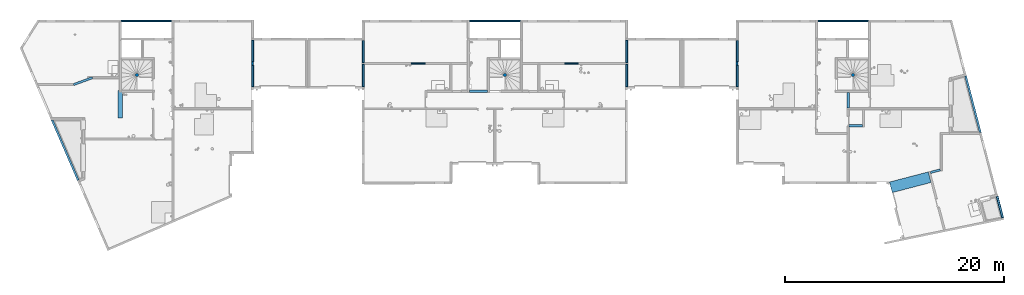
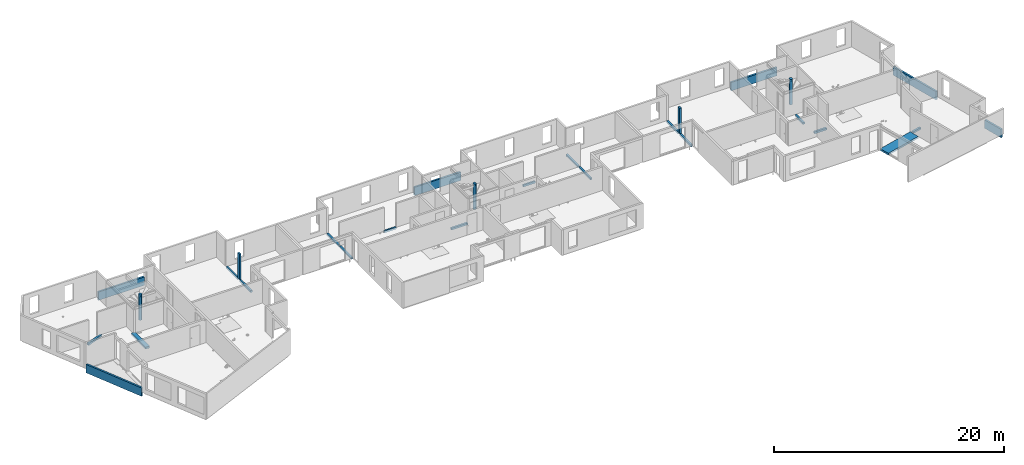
# One storey, part 1 of 30: 23 beams, 5 columns.
"""IFC2X3 building model written with IfcOpenShell, lengths in centimetres."""

from ifc_helpers import new_model, entity, si_unit, converted_unit, derived_unit, direction, frame, frame_2d, origin, origin_2d_with_axis, place, context, subcontext, project, spatial, rectangle, circle, extrude, clip, halfspace, face_set, faceted_brep, surface_model, source, transform, mapped, material, type_object, type_shapes, element, save


model = new_model("IFC2X3")

# Units and contexts
model_context = context("Model", 3, precision=0.001, world=origin(), true_north=direction((6.12303176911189e-17, 1.0)))
body_context = subcontext(model_context, "Body", "Model", "MODEL_VIEW")
ifc_project = project(units=[si_unit("LENGTHUNIT", "METRE", prefix="CENTI"), si_unit("AREAUNIT", "SQUARE_METRE"), si_unit("VOLUMEUNIT", "CUBIC_METRE"), converted_unit("PLANEANGLEUNIT", "DEGREE", entity("IfcRatioMeasure", 0.0174532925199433), si_unit("PLANEANGLEUNIT", "RADIAN"), dimensions=[0, 0, 0, 0, 0, 0, 0]), si_unit("MASSUNIT", "GRAM", prefix="KILO"), derived_unit("MASSDENSITYUNIT", [(si_unit("MASSUNIT", "GRAM", prefix="KILO"), 1), (si_unit("LENGTHUNIT", "METRE"), -3)]), si_unit("TIMEUNIT", "SECOND"), si_unit("FREQUENCYUNIT", "HERTZ"), si_unit("THERMODYNAMICTEMPERATUREUNIT", "DEGREE_CELSIUS"), derived_unit("THERMALTRANSMITTANCEUNIT", [(si_unit("MASSUNIT", "GRAM", prefix="KILO"), 1), (si_unit("THERMODYNAMICTEMPERATUREUNIT", "KELVIN"), -1), (si_unit("TIMEUNIT", "SECOND"), -3)]), derived_unit("VOLUMETRICFLOWRATEUNIT", [(si_unit("LENGTHUNIT", "METRE"), 3), (si_unit("TIMEUNIT", "SECOND"), -1)]), si_unit("ELECTRICCURRENTUNIT", "AMPERE"), si_unit("ELECTRICVOLTAGEUNIT", "VOLT"), si_unit("POWERUNIT", "WATT"), si_unit("FORCEUNIT", "NEWTON"), si_unit("ILLUMINANCEUNIT", "LUX"), si_unit("LUMINOUSFLUXUNIT", "LUMEN"), si_unit("LUMINOUSINTENSITYUNIT", "CANDELA"), derived_unit("USERDEFINED", [(si_unit("MASSUNIT", "GRAM", prefix="KILO"), -1), (si_unit("LENGTHUNIT", "METRE"), -2), (si_unit("TIMEUNIT", "SECOND"), 3), (si_unit("LUMINOUSFLUXUNIT", "LUMEN"), 1)]), derived_unit("LINEARVELOCITYUNIT", [(si_unit("LENGTHUNIT", "METRE"), 1), (si_unit("TIMEUNIT", "SECOND"), -1)]), si_unit("PRESSUREUNIT", "PASCAL"), derived_unit("USERDEFINED", [(si_unit("LENGTHUNIT", "METRE"), -2), (si_unit("MASSUNIT", "GRAM", prefix="KILO"), 1), (si_unit("TIMEUNIT", "SECOND"), -2)])], contexts=[model_context])

# Site, building, storey
site_placement = place(None, origin())
site = spatial("IfcSite", under=ifc_project, at=site_placement, Name="Default", CompositionType="ELEMENT")
building_placement = place(site_placement, origin())
building = spatial("IfcBuilding", under=site, at=building_placement, Name="CAGE 03", CompositionType="ELEMENT")
storey_placement = place(building_placement, frame((0.0, 0.0, 610.0)))
storey = spatial("IfcBuildingStorey", under=building, at=storey_placement, Name="R+2", CompositionType="ELEMENT", Elevation=610.0)

# Columns
ifc_material_1 = material(Name="Béton, C25/30")
column_type_1 = type_object("IfcColumnType", Name="18x30", PredefinedType="COLUMN", material=ifc_material_1)
shared_shape_1 = source(origin(), body_context, "Body", "SweptSolid", [
    extrude(rectangle(XDim=30.0000000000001, YDim=18.0000000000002, at=origin_2d_with_axis()), frame((4869.36582014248, 4895.66066607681, 830.0), z_axis=(0.0, 0.0, 1.0), x_axis=(0.0, -1.0, 0.0)), (0.0, 0.0, 1.0), 50.0),
    extrude(rectangle(XDim=30.0000000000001, YDim=18.0000000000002, at=origin_2d_with_axis()), frame((4869.36582014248, 4895.66066607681, 610.0), z_axis=(0.0, 0.0, 1.0), x_axis=(0.0, -1.0, 0.0)), (0.0, 0.0, 1.0), 219.999999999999),
])
type_shapes(column_type_1, [shared_shape_1])
column_1_placement = place(storey_placement, frame((0.0, 0.0, -610.0)))
element("IfcColumn", 1, at=column_1_placement, inside=storey, type_object=column_type_1, material=ifc_material_1, Name="BBGO-Poteau rect:18x30", ObjectType="18x30", context=body_context, shape_type="MappedRepresentation", body=[
    mapped(shared_shape_1, transform((0.0, 0.0, 0.0), scale=1.0)),
])
column_type_2 = type_object("IfcColumnType", Name="18x30", PredefinedType="COLUMN", material=ifc_material_1)
shared_shape_2 = source(origin(), body_context, "Body", "SweptSolid", [
    extrude(rectangle(XDim=30.0000000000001, YDim=17.9999999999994, at=origin_2d_with_axis()), frame((9293.36582014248, 4895.66066607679, 830.0), z_axis=(0.0, 0.0, 1.0), x_axis=(0.0, -1.0, 0.0)), (0.0, 0.0, 1.0), 50.0),
    extrude(rectangle(XDim=30.0000000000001, YDim=17.9999999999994, at=origin_2d_with_axis()), frame((9293.36582014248, 4895.66066607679, 610.0), z_axis=(0.0, 0.0, 1.0), x_axis=(0.0, -1.0, 0.0)), (0.0, 0.0, 1.0), 219.999999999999),
])
type_shapes(column_type_2, [shared_shape_2])
column_2_placement = place(storey_placement, frame((0.0, 0.0, -610.0)))
element("IfcColumn", 2, at=column_2_placement, inside=storey, type_object=column_type_2, material=ifc_material_1, Name="BBGO-Poteau rect:18x30", ObjectType="18x30", context=body_context, shape_type="MappedRepresentation", body=[
    mapped(shared_shape_2, transform((0.0, 0.0, 0.0), scale=1.0)),
])
ifc_material_2 = material(Name="Béton, panneaux préfa 30/37")
column_type_3 = type_object("IfcColumnType", Name="Ø30", PredefinedType="COLUMN", material=ifc_material_2)
shared_shape_3 = source(origin(), body_context, "Body", "SweptSolid", [
    extrude(circle(Radius=15.0, at=origin_2d_with_axis()), frame((3813.36582014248, 4791.66066607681, 860.0), z_axis=(0.0, 0.0, 1.0), x_axis=(-1.0, 0.0, 0.0)), (0.0, 0.0, 1.0), 20.0),
    extrude(circle(Radius=15.0, at=origin_2d_with_axis()), frame((3813.36582014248, 4791.66066607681, 610.0)), (0.0, 0.0, 1.0), 250.0),
])
type_shapes(column_type_3, [shared_shape_3])
column_3_placement = place(storey_placement, frame((0.0, 0.0, -610.0)))
element("IfcColumn", 3, at=column_3_placement, inside=storey, type_object=column_type_3, material=ifc_material_2, Name="BBGO-Poteau circ:Ø30", ObjectType="Ø30", context=body_context, shape_type="MappedRepresentation", body=[
    mapped(shared_shape_3, transform((0.0, 0.0, 0.0), scale=1.0)),
])
column_type_4 = type_object("IfcColumnType", Name="Ø30", PredefinedType="COLUMN", material=ifc_material_2)
shared_shape_4 = source(origin(), body_context, "Body", "SweptSolid", [
    extrude(circle(Radius=15.0000000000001, at=origin_2d_with_axis()), frame((7172.36582014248, 4791.66066607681, 860.0), z_axis=(0.0, 0.0, 1.0), x_axis=(-1.0, 0.0, 0.0)), (0.0, 0.0, 1.0), 20.0),
    extrude(circle(Radius=15.0000000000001, at=origin_2d_with_axis()), frame((7172.36582014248, 4791.66066607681, 610.0)), (0.0, 0.0, 1.0), 250.0),
])
type_shapes(column_type_4, [shared_shape_4])
column_4_placement = place(storey_placement, frame((0.0, 0.0, -610.0)))
element("IfcColumn", 4, at=column_4_placement, inside=storey, type_object=column_type_4, material=ifc_material_2, Name="BBGO-Poteau circ:Ø30", ObjectType="Ø30", context=body_context, shape_type="MappedRepresentation", body=[
    mapped(shared_shape_4, transform((0.0, 0.0, 0.0), scale=1.0)),
])
column_type_5 = type_object("IfcColumnType", Name="Ø30", PredefinedType="COLUMN", material=ifc_material_2)
shared_shape_5 = source(origin(), body_context, "Body", "SweptSolid", [
    extrude(circle(Radius=15.0, at=origin_2d_with_axis()), frame((10349.3658201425, 4791.66066607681, 860.0), z_axis=(0.0, 0.0, 1.0), x_axis=(-1.0, 0.0, 0.0)), (0.0, 0.0, 1.0), 20.0),
    extrude(circle(Radius=15.0, at=origin_2d_with_axis()), frame((10349.3658201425, 4791.66066607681, 610.0)), (0.0, 0.0, 1.0), 250.0),
])
type_shapes(column_type_5, [shared_shape_5])
column_5_placement = place(storey_placement, frame((0.0, 0.0, -610.0)))
element("IfcColumn", 5, at=column_5_placement, inside=storey, type_object=column_type_5, material=ifc_material_2, Name="BBGO-Poteau circ:Ø30", ObjectType="Ø30", context=body_context, shape_type="MappedRepresentation", body=[
    mapped(shared_shape_5, transform((0.0, 0.0, 0.0), scale=1.0)),
])

# Beams
beam_type_1 = type_object("IfcBeamType", Name="BBGO-Poutre rect:18x89ht", PredefinedType="BEAM")
beam_1_placement = place(storey_placement, frame((3663.36582014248, 5284.66066607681, 0.0)))
element("IfcBeam", 6, at=beam_1_placement, inside=storey, type_object=beam_type_1, material=ifc_material_1, Name="BBGO-Poutre rect:18x89ht", ObjectType="BBGO-Poutre rect:18x89ht", context=body_context, shape_type="SweptSolid", body=[
    extrude(rectangle(XDim=89.0, YDim=17.9999999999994, at=frame_2d((5.32907051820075e-14, 1.73283609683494e-12), x_axis=(1.0, 0.0))), frame((9.0, 0.0, 0.499999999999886), z_axis=(1.0, 0.0, 0.0), x_axis=(0.0, 0.0, -1.0)), (0.0, 0.0, 1.0), 461.999999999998),
])
beam_2_placement = place(storey_placement, frame((6840.36582014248, 5284.6606660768, 0.0)))
element("IfcBeam", 7, at=beam_2_placement, inside=storey, type_object=beam_type_1, material=ifc_material_1, Name="BBGO-Poutre rect:18x89ht", ObjectType="BBGO-Poutre rect:18x89ht", context=body_context, shape_type="SweptSolid", body=[
    extrude(rectangle(XDim=89.0, YDim=17.9999999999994, at=frame_2d((5.32907051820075e-14, 1.73283609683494e-12), x_axis=(1.0, 0.0))), frame((9.0, 0.0, 0.499999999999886), z_axis=(1.0, 0.0, 0.0), x_axis=(0.0, 0.0, -1.0)), (0.0, 0.0, 1.0), 464.0),
])
beam_3_placement = place(storey_placement, frame((10019.3658201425, 5284.66066607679, 0.0)))
element("IfcBeam", 8, at=beam_3_placement, inside=storey, type_object=beam_type_1, material=ifc_material_1, Name="BBGO-Poutre rect:18x89ht", ObjectType="BBGO-Poutre rect:18x89ht", context=body_context, shape_type="SweptSolid", body=[
    extrude(rectangle(XDim=89.0, YDim=17.9999999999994, at=frame_2d((5.32907051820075e-14, 1.73283609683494e-12), x_axis=(1.0, 0.0))), frame((9.0, 0.0, 0.499999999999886), z_axis=(1.0, 0.0, 0.0), x_axis=(0.0, 0.0, -1.0)), (0.0, 0.0, 1.0), 462.000000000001),
])
beam_4_placement = place(storey_placement, frame((3281.62861640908, 3824.01596311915, 0.0), z_axis=(0.0, 0.0, 1.0), x_axis=(-0.397106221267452, 0.91777265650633, 0.0)))
element("IfcBeam", 9, at=beam_4_placement, inside=storey, type_object=beam_type_1, material=ifc_material_1, Name="BBGO-Poutre rect:18x89ht", ObjectType="BBGO-Poutre rect:18x89ht", context=body_context, shape_type="Clipping", body=[
    clip(extrude(rectangle(XDim=89.0, YDim=18.0000000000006, at=frame_2d((5.6843418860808e-14, 2.8421709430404e-13), x_axis=(1.0, 0.0))), frame((9.0, 0.0, 0.499999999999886), z_axis=(1.0, 0.0, 0.0), x_axis=(0.0, 0.0, -1.0)), (0.0, 0.0, 1.0), 602.500740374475), halfspace(frame((496.396298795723, -257.023807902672, -270.0), z_axis=(0.917772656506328, -0.397106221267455, 0.0), x_axis=(-0.397106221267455, -0.917772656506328, 0.0)), False)),
])
beam_5_placement = place(storey_placement, frame((11375.3311365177, 4792.76076680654, 0.0), z_axis=(0.0, 0.0, 1.0), x_axis=(0.252679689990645, -0.967549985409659, 0.0)))
element("IfcBeam", 10, at=beam_5_placement, inside=storey, type_object=beam_type_1, material=ifc_material_1, Name="BBGO-Poutre rect:18x89ht", ObjectType="BBGO-Poutre rect:18x89ht", context=body_context, shape_type="Clipping", body=[
    clip(extrude(rectangle(XDim=89.0, YDim=17.9999999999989, at=frame_2d((5.6843418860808e-14, 8.38440428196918e-13), x_axis=(1.0, 0.0))), frame((9.0, 0.0, 0.499999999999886), z_axis=(1.0, 0.0, 0.0), x_axis=(0.0, 0.0, -1.0)), (0.0, 0.0, 1.0), 537.095008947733), halfspace(frame((547.268838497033, 13.4947766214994, 0.0), z_axis=(0.967549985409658, -0.252679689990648, 0.0), x_axis=(-0.252679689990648, -0.967549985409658, 0.0)), False)),
])
beam_6_placement = place(storey_placement, frame((11662.375264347, 3693.62398338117, 0.0), z_axis=(0.0, 0.0, 1.0), x_axis=(0.252679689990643, -0.96754998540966, 0.0)))
element("IfcBeam", 11, at=beam_6_placement, inside=storey, type_object=beam_type_1, material=ifc_material_1, Name="BBGO-Poutre rect:18x89ht", ObjectType="BBGO-Poutre rect:18x89ht", context=body_context, shape_type="Clipping", body=[
    clip(extrude(rectangle(XDim=89.0, YDim=17.999999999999, at=frame_2d((5.6843418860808e-14, 2.62456723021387e-12), x_axis=(1.0, 0.0))), frame((9.0, 0.0, 0.499999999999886), z_axis=(1.0, 0.0, 0.0), x_axis=(0.0, 0.0, -1.0)), (0.0, 0.0, 1.0), 204.587793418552), halfspace(frame((171.771995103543, -791.479812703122, -270.0), z_axis=(0.998638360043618, -0.0521672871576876, 0.0), x_axis=(-0.0521672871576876, -0.998638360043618, 0.0)), False)),
])
beam_type_2 = type_object("IfcBeamType", Name="18x20ht", PredefinedType="BEAM", material=ifc_material_1)
shared_shape_6 = source(origin(), body_context, "Body", "Brep", [
    faceted_brep([(18.0, 194.0, 20.0), (18.0, 194.0, 0.0), (0.0, 194.0, 0.0), (0.0, 194.0, 20.0), (18.0, 0.0, 20.0), (0.0, 0.0, 20.0), (0.0, 0.0, 0.0), (18.0, 0.0, 0.0)], [[[0, 1, 2, 3]], [[4, 5, 6, 7]], [[1, 0, 4, 7]], [[2, 1, 7, 6]], [[3, 2, 6, 5]], [[0, 3, 5, 4]]]),
])
type_shapes(beam_type_2, [shared_shape_6])
beam_7_placement = place(storey_placement, frame((4860.36582014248, 4686.66066607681, -20.0)))
element("IfcBeam", 12, at=beam_7_placement, inside=storey, type_object=beam_type_2, material=ifc_material_1, Name="BBGO-Poutre rect:18x20ht", ObjectType="18x20ht", context=body_context, shape_type="MappedRepresentation", body=[
    mapped(shared_shape_6, transform((0.0, 0.0, 0.0), scale=1.0)),
])
beam_type_3 = type_object("IfcBeamType", Name="18x20ht", PredefinedType="BEAM", material=ifc_material_1)
shared_shape_7 = source(origin(), body_context, "Body", "Brep", [
    faceted_brep([(18.0, 200.0, 20.0), (18.0, 200.0, 0.0), (0.0, 200.0, 0.0), (0.0, 200.0, 20.0), (18.0, 0.0, 20.0), (0.0, 0.0, 20.0), (0.0, 0.0, 0.0), (18.0, 0.0, 0.0)], [[[0, 1, 2, 3]], [[4, 5, 6, 7]], [[1, 0, 4, 7]], [[2, 1, 7, 6]], [[3, 2, 6, 5]], [[0, 3, 5, 4]]]),
])
type_shapes(beam_type_3, [shared_shape_7])
beam_8_placement = place(storey_placement, frame((4860.36582014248, 4910.66066607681, -20.0)))
element("IfcBeam", 13, at=beam_8_placement, inside=storey, type_object=beam_type_3, material=ifc_material_1, Name="BBGO-Poutre rect:18x20ht", ObjectType="18x20ht", context=body_context, shape_type="MappedRepresentation", body=[
    mapped(shared_shape_7, transform((0.0, 0.0, 0.0), scale=1.0)),
])
beam_type_4 = type_object("IfcBeamType", Name="20x20ht", PredefinedType="BEAM", material=ifc_material_1)
shared_shape_8 = source(origin(), body_context, "Body", "SurfaceModel", [
    surface_model("IfcFaceBasedSurfaceModel", [(0.0, 18.7798778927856, 20.0), (6.8786762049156, 0.0, 20.0), (6.8786762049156, 0.0, 0.0), (0.0, 18.7798778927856, 0.0), (172.0, 81.7798778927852, 20.0), (178.878676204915, 63.0, 20.0), (178.878676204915, 63.0, 0.0), (172.0, 81.7798778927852, 0.0)], [face_set([[[0, 1, 2, 3]], [[4, 5, 6, 7]], [[3, 0, 4, 7]], [[2, 3, 7, 6]], [[1, 2, 6, 5]], [[0, 1, 5, 4]]])]),
])
type_shapes(beam_type_4, [shared_shape_8])
beam_9_placement = place(storey_placement, frame((3232.92648204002, 4694.77072713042, -20.0)))
element("IfcBeam", 14, at=beam_9_placement, inside=storey, type_object=beam_type_4, material=ifc_material_1, Name="BBGO-Poutre rect:20x20ht", ObjectType="20x20ht", context=body_context, shape_type="MappedRepresentation", body=[
    mapped(shared_shape_8, transform((0.0, 0.0, 0.0), scale=1.0)),
])
beam_type_5 = type_object("IfcBeamType", Name="18x20ht", PredefinedType="BEAM", material=ifc_material_1)
shared_shape_9 = source(origin(), body_context, "Body", "Brep", [
    faceted_brep([(0.0, 201.0, 20.0), (18.0, 201.0, 20.0), (18.0, 201.0, 0.0), (0.0, 201.0, 0.0), (0.0, 0.0, 20.0), (0.0, 0.0, 0.0), (18.0, 0.0, 0.0), (18.0, 0.0, 20.0)], [[[0, 1, 2, 3]], [[4, 5, 6, 7]], [[3, 5, 4, 0]], [[2, 6, 5, 3]], [[1, 7, 6, 2]], [[0, 4, 7, 1]]]),
])
type_shapes(beam_type_5, [shared_shape_9])
beam_10_placement = place(storey_placement, frame((5870.36582014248, 4686.66066607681, -20.0)))
element("IfcBeam", 15, at=beam_10_placement, inside=storey, type_object=beam_type_5, material=ifc_material_1, Name="BBGO-Poutre rect:18x20ht", ObjectType="18x20ht", context=body_context, shape_type="MappedRepresentation", body=[
    mapped(shared_shape_9, transform((0.0, 0.0, 0.0), scale=1.0)),
])
beam_type_6 = type_object("IfcBeamType", Name="18x20ht", PredefinedType="BEAM", material=ifc_material_1)
shared_shape_10 = source(origin(), body_context, "Body", "Brep", [
    faceted_brep([(0.0, 207.0, 20.0), (18.0, 207.0, 20.0), (18.0, 207.0, 0.0), (0.0, 207.0, 0.0), (0.0, 0.0, 20.0), (0.0, 0.0, 0.0), (18.0, 0.0, 0.0), (18.0, 0.0, 20.0)], [[[0, 1, 2, 3]], [[4, 5, 6, 7]], [[3, 5, 4, 0]], [[2, 6, 5, 3]], [[1, 7, 6, 2]], [[0, 4, 7, 1]]]),
])
type_shapes(beam_type_6, [shared_shape_10])
beam_11_placement = place(storey_placement, frame((5870.36582014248, 4903.6606660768, -20.0)))
element("IfcBeam", 16, at=beam_11_placement, inside=storey, type_object=beam_type_6, material=ifc_material_1, Name="BBGO-Poutre rect:18x20ht", ObjectType="18x20ht", context=body_context, shape_type="MappedRepresentation", body=[
    mapped(shared_shape_10, transform((0.0, 0.0, 0.0), scale=1.0)),
])
beam_type_7 = type_object("IfcBeamType", Name="18x20ht", PredefinedType="BEAM", material=ifc_material_1)
shared_shape_11 = source(origin(), body_context, "Body", "Brep", [
    faceted_brep([(18.0, 194.0, 20.0), (18.0, 194.0, 0.0), (0.0, 194.0, 0.0), (0.0, 194.0, 20.0), (18.0, 0.0, 20.0), (0.0, 0.0, 20.0), (0.0, 0.0, 0.0), (18.0, 0.0, 0.0)], [[[0, 1, 2, 3]], [[4, 5, 6, 7]], [[1, 0, 4, 7]], [[2, 1, 7, 6]], [[3, 2, 6, 5]], [[0, 3, 5, 4]]]),
])
type_shapes(beam_type_7, [shared_shape_11])
beam_12_placement = place(storey_placement, frame((9284.36582014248, 4686.66066607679, -20.0)))
element("IfcBeam", 17, at=beam_12_placement, inside=storey, type_object=beam_type_7, material=ifc_material_1, Name="BBGO-Poutre rect:18x20ht", ObjectType="18x20ht", context=body_context, shape_type="MappedRepresentation", body=[
    mapped(shared_shape_11, transform((0.0, 0.0, 0.0), scale=1.0)),
])
beam_type_8 = type_object("IfcBeamType", Name="18x20ht", PredefinedType="BEAM", material=ifc_material_1)
shared_shape_12 = source(origin(), body_context, "Body", "Brep", [
    faceted_brep([(18.0, 200.0, 20.0), (18.0, 200.0, 0.0), (0.0, 200.0, 0.0), (0.0, 200.0, 20.0), (18.0, 0.0, 20.0), (0.0, 0.0, 20.0), (0.0, 0.0, 0.0), (18.0, 0.0, 0.0)], [[[0, 1, 2, 3]], [[4, 5, 6, 7]], [[1, 0, 4, 7]], [[2, 1, 7, 6]], [[3, 2, 6, 5]], [[0, 3, 5, 4]]]),
])
type_shapes(beam_type_8, [shared_shape_12])
beam_13_placement = place(storey_placement, frame((9284.36582014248, 4910.66066607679, -20.0)))
element("IfcBeam", 18, at=beam_13_placement, inside=storey, type_object=beam_type_8, material=ifc_material_1, Name="BBGO-Poutre rect:18x20ht", ObjectType="18x20ht", context=body_context, shape_type="MappedRepresentation", body=[
    mapped(shared_shape_12, transform((0.0, 0.0, 0.0), scale=1.0)),
])
beam_type_9 = type_object("IfcBeamType", Name="18x20ht", PredefinedType="BEAM", material=ifc_material_1)
shared_shape_13 = source(origin(), body_context, "Body", "Brep", [
    faceted_brep([(0.0, 201.0, 20.0), (18.0, 201.0, 20.0), (18.0, 201.0, 0.0), (0.0, 201.0, 0.0), (0.0, 0.0, 20.0), (0.0, 0.0, 0.0), (18.0, 0.0, 0.0), (18.0, 0.0, 20.0)], [[[0, 1, 2, 3]], [[4, 5, 6, 7]], [[3, 5, 4, 0]], [[2, 6, 5, 3]], [[1, 7, 6, 2]], [[0, 4, 7, 1]]]),
])
type_shapes(beam_type_9, [shared_shape_13])
beam_14_placement = place(storey_placement, frame((8274.36582014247, 4686.6606660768, -20.0)))
element("IfcBeam", 19, at=beam_14_placement, inside=storey, type_object=beam_type_9, material=ifc_material_1, Name="BBGO-Poutre rect:18x20ht", ObjectType="18x20ht", context=body_context, shape_type="MappedRepresentation", body=[
    mapped(shared_shape_13, transform((0.0, 0.0, 0.0), scale=1.0)),
])
beam_type_10 = type_object("IfcBeamType", Name="18x20ht", PredefinedType="BEAM", material=ifc_material_1)
shared_shape_14 = source(origin(), body_context, "Body", "Brep", [
    faceted_brep([(0.0, 207.0, 20.0), (18.0, 207.0, 20.0), (18.0, 207.0, 0.0), (0.0, 207.0, 0.0), (0.0, 0.0, 20.0), (0.0, 0.0, 0.0), (18.0, 0.0, 0.0), (18.0, 0.0, 20.0)], [[[0, 1, 2, 3]], [[4, 5, 6, 7]], [[3, 5, 4, 0]], [[2, 6, 5, 3]], [[1, 7, 6, 2]], [[0, 4, 7, 1]]]),
])
type_shapes(beam_type_10, [shared_shape_14])
beam_15_placement = place(storey_placement, frame((8274.36582014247, 4903.6606660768, -20.0)))
element("IfcBeam", 20, at=beam_15_placement, inside=storey, type_object=beam_type_10, material=ifc_material_1, Name="BBGO-Poutre rect:18x20ht", ObjectType="18x20ht", context=body_context, shape_type="MappedRepresentation", body=[
    mapped(shared_shape_14, transform((0.0, 0.0, 0.0), scale=1.0)),
])
beam_type_11 = type_object("IfcBeamType", Name="16x20ht", PredefinedType="BEAM", material=ifc_material_1)
shared_shape_15 = source(origin(), body_context, "Body", "Brep", [
    faceted_brep([(124.0, 0.0, 20.0), (124.0, 0.0, 0.0), (124.0, 16.0, 0.0), (124.0, 16.0, 20.0), (0.0, 0.0, 20.0), (0.0, 16.0, 20.0), (0.0, 16.0, 0.0), (0.0, 0.0, 0.0)], [[[0, 1, 2, 3]], [[4, 5, 6, 7]], [[1, 0, 4, 7]], [[2, 1, 7, 6]], [[3, 2, 6, 5]], [[0, 3, 5, 4]]]),
])
type_shapes(beam_type_11, [shared_shape_15])
beam_16_placement = place(storey_placement, frame((6320.36582014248, 4887.6606660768, -20.0)))
element("IfcBeam", 21, at=beam_16_placement, inside=storey, type_object=beam_type_11, material=ifc_material_1, Name="BBGO-Poutre rect:16x20ht", ObjectType="16x20ht", context=body_context, shape_type="MappedRepresentation", body=[
    mapped(shared_shape_15, transform((0.0, 0.0, 0.0), scale=1.0)),
])
beam_type_12 = type_object("IfcBeamType", Name="16x20ht", PredefinedType="BEAM", material=ifc_material_1)
shared_shape_16 = source(origin(), body_context, "Body", "Brep", [
    faceted_brep([(122.0, 0.0, 20.0), (122.0, 0.0, 0.0), (122.0, 16.0, 0.0), (122.0, 16.0, 20.0), (0.0, 0.0, 20.0), (0.0, 16.0, 20.0), (0.0, 16.0, 0.0), (0.0, 0.0, 0.0)], [[[0, 1, 2, 3]], [[4, 5, 6, 7]], [[1, 0, 4, 7]], [[2, 1, 7, 6]], [[3, 2, 6, 5]], [[0, 3, 5, 4]]]),
])
type_shapes(beam_type_12, [shared_shape_16])
beam_17_placement = place(storey_placement, frame((7718.36582014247, 4887.6606660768, -20.0)))
element("IfcBeam", 22, at=beam_17_placement, inside=storey, type_object=beam_type_12, material=ifc_material_1, Name="BBGO-Poutre rect:16x20ht", ObjectType="16x20ht", context=body_context, shape_type="MappedRepresentation", body=[
    mapped(shared_shape_16, transform((0.0, 0.0, 0.0), scale=1.0)),
])
beam_type_13 = type_object("IfcBeamType", Name="100x20ht", PredefinedType="BEAM", material=ifc_material_1)
shared_shape_17 = source(origin(), body_context, "Body", "SurfaceModel", [
    surface_model("IfcFaceBasedSurfaceModel", [(379.391263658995, 92.4807665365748, 20.0), (379.391263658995, 92.4807665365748, 0.0), (354.123294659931, 189.235765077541, 0.0), (354.123294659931, 189.235765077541, 20.0), (25.2679689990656, 0.0, 20.0), (25.2679689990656, 0.0, 0.0), (0.0, 96.7549985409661, 0.0), (0.0, 96.7549985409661, 20.0)], [face_set([[[0, 1, 2, 3]], [[4, 5, 6, 7]], [[1, 0, 4, 5]], [[2, 1, 5, 6]], [[3, 2, 6, 7]], [[0, 3, 7, 4]]])]),
])
type_shapes(beam_type_13, [shared_shape_17])
beam_18_placement = place(storey_placement, frame((10683.5281497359, 3717.90566753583, -20.0)))
element("IfcBeam", 23, at=beam_18_placement, inside=storey, type_object=beam_type_13, material=ifc_material_1, Name="BBGO-Poutre rect:100x20ht", ObjectType="100x20ht", context=body_context, shape_type="MappedRepresentation", body=[
    mapped(shared_shape_17, transform((0.0, 0.0, 0.0), scale=1.0)),
])
beam_type_14 = type_object("IfcBeamType", Name="20x20ht", PredefinedType="BEAM", material=ifc_material_1)
shared_shape_18 = source(origin(), body_context, "Body", "SurfaceModel", [
    surface_model("IfcFaceBasedSurfaceModel", [(94.3252729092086, 23.3136691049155, 20.0), (94.3252729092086, 23.3136691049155, 0.0), (89.2716791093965, 42.6646688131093, 0.0), (89.2716791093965, 42.6646688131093, 20.0), (5.05359379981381, 0.0, 20.0), (5.05359379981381, 0.0, 0.0), (0.0, 19.3509997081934, 0.0), (0.0, 19.3509997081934, 20.0)], [face_set([[[0, 1, 2, 3]], [[4, 5, 6, 7]], [[1, 0, 4, 5]], [[2, 1, 5, 6]], [[3, 2, 6, 7]], [[0, 3, 7, 4]]])]),
])
type_shapes(beam_type_14, [shared_shape_18])
beam_19_placement = place(storey_placement, frame((11055.0673441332, 3892.33866732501, -20.0)))
element("IfcBeam", 24, at=beam_19_placement, inside=storey, type_object=beam_type_14, material=ifc_material_1, Name="BBGO-Poutre rect:20x20ht", ObjectType="20x20ht", context=body_context, shape_type="MappedRepresentation", body=[
    mapped(shared_shape_18, transform((0.0, 0.0, 0.0), scale=1.0)),
])
beam_type_15 = type_object("IfcBeamType", Name="40x20ht", PredefinedType="BEAM", material=ifc_material_1)
shared_shape_19 = source(origin(), body_context, "Body", "Brep", [
    faceted_brep([(40.0, 251.0, 20.0), (40.0, 251.0, 0.0), (0.0, 251.0, 0.0), (0.0, 251.0, 20.0), (40.0, 0.0, 20.0), (0.0, 0.0, 20.0), (0.0, 0.0, 0.0), (40.0, 0.0, 0.0)], [[[0, 1, 2, 3]], [[4, 5, 6, 7]], [[1, 0, 4, 7]], [[2, 1, 7, 6]], [[3, 2, 6, 5]], [[0, 3, 5, 4]]]),
])
type_shapes(beam_type_15, [shared_shape_19])
beam_20_placement = place(storey_placement, frame((3641.36582014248, 4399.66066607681, -20.0)))
element("IfcBeam", 25, at=beam_20_placement, inside=storey, type_object=beam_type_15, material=ifc_material_1, Name="BBGO-Poutre rect:40x20ht", ObjectType="40x20ht", context=body_context, shape_type="MappedRepresentation", body=[
    mapped(shared_shape_19, transform((0.0, 0.0, 0.0), scale=1.0)),
])
beam_type_16 = type_object("IfcBeamType", Name="20x20ht", PredefinedType="BEAM", material=ifc_material_1)
shared_shape_20 = source(origin(), body_context, "Body", "Brep", [
    faceted_brep([(164.0, 0.0, 20.0), (164.0, 0.0, 0.0), (164.0, 20.0, 0.0), (164.0, 20.0, 20.0), (0.0, 0.0, 20.0), (0.0, 20.0, 20.0), (0.0, 20.0, 0.0), (0.0, 0.0, 0.0)], [[[0, 1, 2, 3]], [[4, 5, 6, 7]], [[1, 0, 4, 7]], [[2, 1, 7, 6]], [[3, 2, 6, 5]], [[0, 3, 5, 4]]]),
])
type_shapes(beam_type_16, [shared_shape_20])
beam_21_placement = place(storey_placement, frame((6849.36582014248, 4632.6606660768, -20.0)))
element("IfcBeam", 26, at=beam_21_placement, inside=storey, type_object=beam_type_16, material=ifc_material_1, Name="BBGO-Poutre rect:20x20ht", ObjectType="20x20ht", context=body_context, shape_type="MappedRepresentation", body=[
    mapped(shared_shape_20, transform((0.0, 0.0, 0.0), scale=1.0)),
])
beam_type_17 = type_object("IfcBeamType", Name="20x20ht", PredefinedType="BEAM", material=ifc_material_1)
shared_shape_21 = source(origin(), body_context, "Body", "Brep", [
    faceted_brep([(20.0, 140.0, 20.0), (20.0, 140.0, 0.0), (0.0, 140.0, 0.0), (0.0, 140.0, 20.0), (20.0, 0.0, 20.0), (0.0, 0.0, 20.0), (0.0, 0.0, 0.0), (20.0, 0.0, 0.0)], [[[0, 1, 2, 3]], [[4, 5, 6, 7]], [[1, 0, 4, 7]], [[2, 1, 7, 6]], [[3, 2, 6, 5]], [[0, 3, 5, 4]]]),
])
type_shapes(beam_type_17, [shared_shape_21])
beam_22_placement = place(storey_placement, frame((10297.3658201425, 4492.66066607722, -20.0)))
element("IfcBeam", 27, at=beam_22_placement, inside=storey, type_object=beam_type_17, material=ifc_material_1, Name="BBGO-Poutre rect:20x20ht", ObjectType="20x20ht", context=body_context, shape_type="MappedRepresentation", body=[
    mapped(shared_shape_21, transform((0.0, 0.0, 0.0), scale=1.0)),
])
beam_type_18 = type_object("IfcBeamType", Name="20x20ht", PredefinedType="BEAM", material=ifc_material_1)
shared_shape_22 = source(origin(), body_context, "Body", "Brep", [
    faceted_brep([(122.0, 0.0, 20.0), (122.0, 0.0, 0.0), (122.0, 20.0, 0.0), (122.0, 20.0, 20.0), (0.0, 0.0, 20.0), (0.0, 20.0, 20.0), (0.0, 20.0, 0.0), (0.0, 0.0, 0.0)], [[[0, 1, 2, 3]], [[4, 5, 6, 7]], [[1, 0, 4, 7]], [[2, 1, 7, 6]], [[3, 2, 6, 5]], [[0, 3, 5, 4]]]),
])
type_shapes(beam_type_18, [shared_shape_22])
beam_23_placement = place(storey_placement, frame((10315.3658201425, 4317.66066607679, -20.0)))
element("IfcBeam", 28, at=beam_23_placement, inside=storey, type_object=beam_type_18, material=ifc_material_1, Name="BBGO-Poutre rect:20x20ht", ObjectType="20x20ht", context=body_context, shape_type="MappedRepresentation", body=[
    mapped(shared_shape_22, transform((0.0, 0.0, 0.0), scale=1.0)),
])

save(model, "model.ifc")
